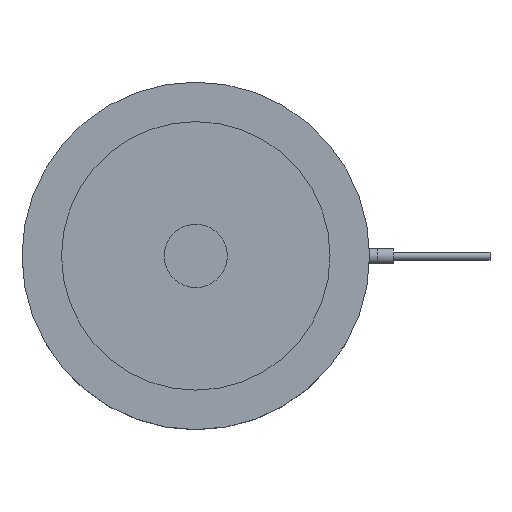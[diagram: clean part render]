
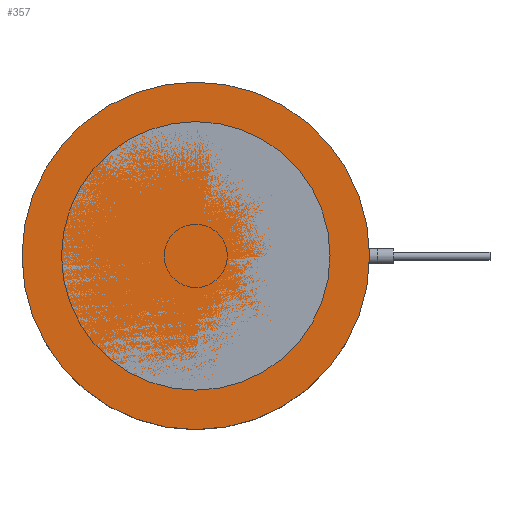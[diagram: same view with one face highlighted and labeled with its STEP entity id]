
A CAD part, top view. The second image highlights one B-rep face of the part: STEP entity #357.
In plain terms, the highlighted planar face has unit normal (0, 0, 1).
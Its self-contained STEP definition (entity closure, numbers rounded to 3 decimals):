
#357=ADVANCED_FACE('',(#448),#396,.F.);
#396=PLANE('',#1190);
#448=FACE_OUTER_BOUND('',#565,.T.);
#565=EDGE_LOOP('',(#777));
#777=ORIENTED_EDGE('',*,*,#976,.F.);
#869=VERTEX_POINT('',#1885);
#976=EDGE_CURVE('',#869,#869,#1046,.T.);
#1046=CIRCLE('',#1189,22.);
#1189=AXIS2_PLACEMENT_3D('',#1884,#1504,#1505);
#1190=AXIS2_PLACEMENT_3D('',#1886,#1506,#1507);
#1504=DIRECTION('',(0.,0.,-1.));
#1505=DIRECTION('',(-1.,0.,0.));
#1506=DIRECTION('',(0.,0.,-1.));
#1507=DIRECTION('',(-1.,0.,0.));
#1884=CARTESIAN_POINT('',(0.,0.,0.));
#1885=CARTESIAN_POINT('',(-22.,0.,0.));
#1886=CARTESIAN_POINT('',(0.,0.,0.));
